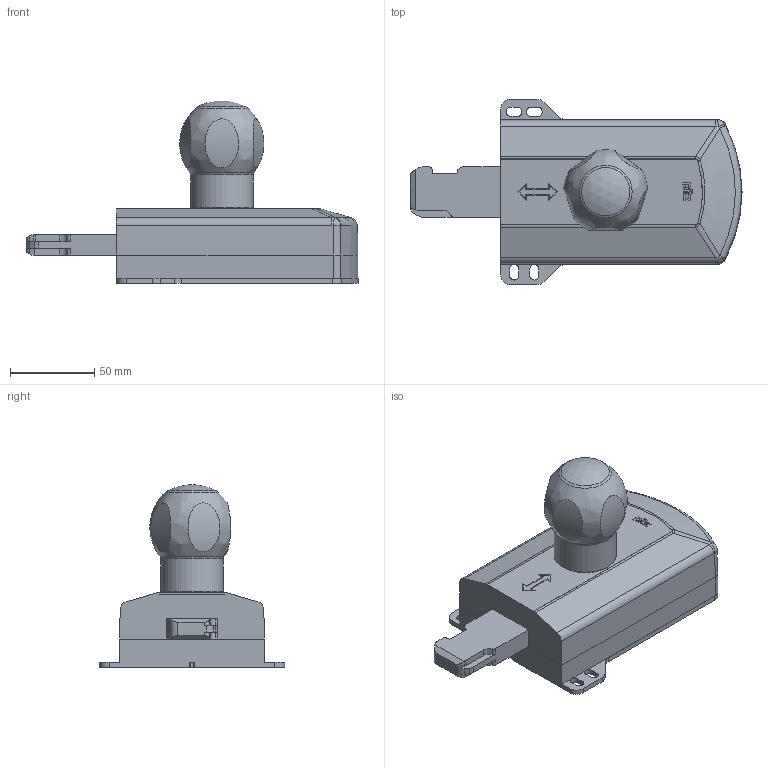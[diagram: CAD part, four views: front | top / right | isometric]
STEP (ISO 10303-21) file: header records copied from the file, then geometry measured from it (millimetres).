
FILE_DESCRIPTION((''),'2;1');
FILE_NAME('D:\_Vault\Workspace\Projektordner\Sensoren\PSENsgate\Kundendaten\H303638_A_PSENsg2_actuator_L.stp','2014-03-12T16:50:06',('jeberle'),(''),'Autodesk Inventor 2013','Autodesk Inventor 2013','');
FILE_SCHEMA(('CONFIG_CONTROL_DESIGN'));
Length unit declared in the file: millimetre
Products named in the file (1): H303638_PSENsg2_actuator_L
Bounding box: 196.7 x 110 x 108.05 mm (x, y, z)
Volume: 602777.9 mm3; surface area: 59088 mm2
Topology: 1 solids, 12 shells, 327 faces, 805 edges, 524 vertices
Faces by surface type: plane 178, cylinder 70, bspline 62, sphere 7, cone 7, torus 3
Full cylindrical faces by diameter (mm): 1.314 x1, 4.5 x1, 8 x1, 8.191 x1, 37 x1
Entity records: 11288 total; most frequent: CARTESIAN_POINT 3900, ORIENTED_EDGE 1578, DIRECTION 1342, EDGE_CURVE 789, VERTEX_POINT 521, AXIS2_PLACEMENT_3D 458, VECTOR 426, LINE 426
